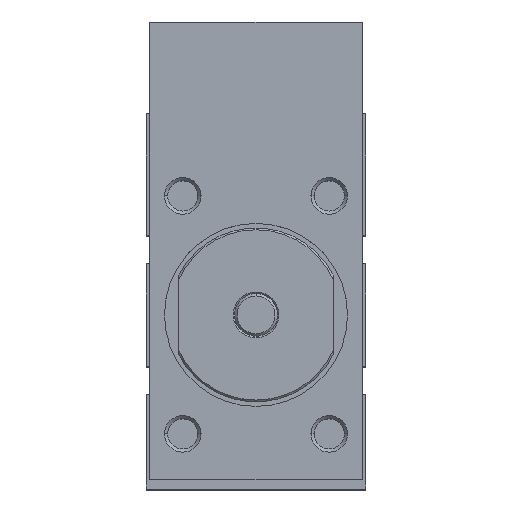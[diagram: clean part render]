
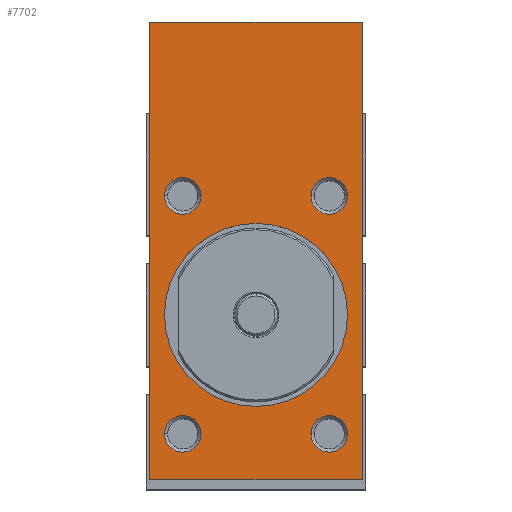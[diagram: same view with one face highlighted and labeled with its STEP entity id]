
A CAD part, top view. The second image highlights one B-rep face of the part: STEP entity #7702.
In plain terms, the highlighted planar face has unit normal (0, 0, 1).
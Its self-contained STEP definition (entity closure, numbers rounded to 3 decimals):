
#5432=DIRECTION('',(0.,-1.,0.));
#5433=VECTOR('',#5432,50.);
#5434=CARTESIAN_POINT('',(-11.6,32.,0.));
#5435=LINE('',#5434,#5433);
#5436=DIRECTION('',(1.,0.,0.));
#5437=VECTOR('',#5436,23.2);
#5438=CARTESIAN_POINT('',(-11.6,-18.,0.));
#5439=LINE('',#5438,#5437);
#5440=DIRECTION('',(1.,0.,0.));
#5441=VECTOR('',#5440,23.2);
#5442=CARTESIAN_POINT('',(-11.6,32.,0.));
#5443=LINE('',#5442,#5441);
#5444=CARTESIAN_POINT('',(0.,0.,0.));
#5445=DIRECTION('',(0.,0.,1.));
#5446=DIRECTION('',(0.,1.,0.));
#5447=AXIS2_PLACEMENT_3D('',#5444,#5445,#5446);
#5449=CARTESIAN_POINT('',(0.,0.,0.));
#5450=DIRECTION('',(0.,0.,1.));
#5451=DIRECTION('',(0.,-1.,0.));
#5452=AXIS2_PLACEMENT_3D('',#5449,#5450,#5451);
#5686=DIRECTION('',(0.,-1.,0.));
#5687=VECTOR('',#5686,50.);
#5688=CARTESIAN_POINT('',(11.6,32.,0.));
#5689=LINE('',#5688,#5687);
#5934=CARTESIAN_POINT('',(-8.,13.,0.));
#5935=DIRECTION('',(0.,0.,1.));
#5936=DIRECTION('',(1.,0.,0.));
#5937=AXIS2_PLACEMENT_3D('',#5934,#5935,#5936);
#5944=CARTESIAN_POINT('',(-8.,13.,0.));
#5945=DIRECTION('',(0.,0.,1.));
#5946=DIRECTION('',(-1.,0.,0.));
#5947=AXIS2_PLACEMENT_3D('',#5944,#5945,#5946);
#5998=CARTESIAN_POINT('',(8.,13.,0.));
#5999=DIRECTION('',(0.,0.,1.));
#6000=DIRECTION('',(1.,0.,0.));
#6001=AXIS2_PLACEMENT_3D('',#5998,#5999,#6000);
#6008=CARTESIAN_POINT('',(8.,13.,0.));
#6009=DIRECTION('',(0.,0.,1.));
#6010=DIRECTION('',(-1.,0.,0.));
#6011=AXIS2_PLACEMENT_3D('',#6008,#6009,#6010);
#6062=CARTESIAN_POINT('',(-8.,-13.,0.));
#6063=DIRECTION('',(0.,0.,1.));
#6064=DIRECTION('',(1.,0.,0.));
#6065=AXIS2_PLACEMENT_3D('',#6062,#6063,#6064);
#6072=CARTESIAN_POINT('',(-8.,-13.,0.));
#6073=DIRECTION('',(0.,0.,1.));
#6074=DIRECTION('',(-1.,0.,0.));
#6075=AXIS2_PLACEMENT_3D('',#6072,#6073,#6074);
#6126=CARTESIAN_POINT('',(8.,-13.,0.));
#6127=DIRECTION('',(0.,0.,1.));
#6128=DIRECTION('',(1.,0.,0.));
#6129=AXIS2_PLACEMENT_3D('',#6126,#6127,#6128);
#6136=CARTESIAN_POINT('',(8.,-13.,0.));
#6137=DIRECTION('',(0.,0.,1.));
#6138=DIRECTION('',(-1.,0.,0.));
#6139=AXIS2_PLACEMENT_3D('',#6136,#6137,#6138);
#7122=CARTESIAN_POINT('',(-11.6,-18.,0.));
#7124=VERTEX_POINT('',#7122);
#7136=CARTESIAN_POINT('',(-11.6,32.,0.));
#7137=VERTEX_POINT('',#7136);
#7138=CARTESIAN_POINT('',(11.6,-18.,0.));
#7140=VERTEX_POINT('',#7138);
#7152=CARTESIAN_POINT('',(11.6,32.,0.));
#7153=VERTEX_POINT('',#7152);
#7166=CARTESIAN_POINT('',(0.,10.,0.));
#7167=CARTESIAN_POINT('',(0.,-10.,0.));
#7168=VERTEX_POINT('',#7166);
#7169=VERTEX_POINT('',#7167);
#7190=CARTESIAN_POINT('',(-6.,13.,0.));
#7191=CARTESIAN_POINT('',(-10.,13.,0.));
#7192=VERTEX_POINT('',#7190);
#7193=VERTEX_POINT('',#7191);
#7198=CARTESIAN_POINT('',(10.,13.,0.));
#7199=CARTESIAN_POINT('',(6.,13.,0.));
#7200=VERTEX_POINT('',#7198);
#7201=VERTEX_POINT('',#7199);
#7206=CARTESIAN_POINT('',(10.,-13.,0.));
#7207=CARTESIAN_POINT('',(6.,-13.,0.));
#7208=VERTEX_POINT('',#7206);
#7209=VERTEX_POINT('',#7207);
#7214=CARTESIAN_POINT('',(-6.,-13.,0.));
#7215=CARTESIAN_POINT('',(-10.,-13.,0.));
#7216=VERTEX_POINT('',#7214);
#7217=VERTEX_POINT('',#7215);
#7659=CARTESIAN_POINT('',(-11.6,32.,0.));
#7660=DIRECTION('',(0.,0.,1.));
#7661=DIRECTION('',(0.,-1.,0.));
#7662=AXIS2_PLACEMENT_3D('',#7659,#7660,#7661);
#7663=PLANE('',#7662);
#7664=ORIENTED_EDGE('',*,*,#7639,.F.);
#7666=ORIENTED_EDGE('',*,*,#7665,.T.);
#7668=ORIENTED_EDGE('',*,*,#7667,.T.);
#7669=ORIENTED_EDGE('',*,*,#7650,.F.);
#7670=EDGE_LOOP('',(#7664,#7666,#7668,#7669));
#7671=FACE_OUTER_BOUND('',#7670,.F.);
#7673=ORIENTED_EDGE('',*,*,#7672,.T.);
#7675=ORIENTED_EDGE('',*,*,#7674,.T.);
#7676=EDGE_LOOP('',(#7673,#7675));
#7677=FACE_BOUND('',#7676,.F.);
#7679=ORIENTED_EDGE('',*,*,#7678,.T.);
#7681=ORIENTED_EDGE('',*,*,#7680,.T.);
#7682=EDGE_LOOP('',(#7679,#7681));
#7683=FACE_BOUND('',#7682,.F.);
#7685=ORIENTED_EDGE('',*,*,#7684,.T.);
#7687=ORIENTED_EDGE('',*,*,#7686,.T.);
#7688=EDGE_LOOP('',(#7685,#7687));
#7689=FACE_BOUND('',#7688,.F.);
#7691=ORIENTED_EDGE('',*,*,#7690,.T.);
#7693=ORIENTED_EDGE('',*,*,#7692,.T.);
#7694=EDGE_LOOP('',(#7691,#7693));
#7695=FACE_BOUND('',#7694,.F.);
#7697=ORIENTED_EDGE('',*,*,#7696,.T.);
#7699=ORIENTED_EDGE('',*,*,#7698,.T.);
#7700=EDGE_LOOP('',(#7697,#7699));
#7701=FACE_BOUND('',#7700,.F.);
#7702=ADVANCED_FACE('',(#7671,#7677,#7683,#7689,#7695,#7701),#7663,.T.);
#5448=CIRCLE('',#5447,10.);
#5453=CIRCLE('',#5452,10.);
#5938=CIRCLE('',#5937,2.);
#5948=CIRCLE('',#5947,2.);
#6002=CIRCLE('',#6001,2.);
#6012=CIRCLE('',#6011,2.);
#6066=CIRCLE('',#6065,2.);
#6076=CIRCLE('',#6075,2.);
#6130=CIRCLE('',#6129,2.);
#6140=CIRCLE('',#6139,2.);
#7639=EDGE_CURVE('',#7137,#7124,#5435,.T.);
#7650=EDGE_CURVE('',#7124,#7140,#5439,.T.);
#7665=EDGE_CURVE('',#7137,#7153,#5443,.T.);
#7667=EDGE_CURVE('',#7153,#7140,#5689,.T.);
#7672=EDGE_CURVE('',#7168,#7169,#5448,.T.);
#7674=EDGE_CURVE('',#7169,#7168,#5453,.T.);
#7678=EDGE_CURVE('',#7192,#7193,#5938,.T.);
#7680=EDGE_CURVE('',#7193,#7192,#5948,.T.);
#7684=EDGE_CURVE('',#7200,#7201,#6002,.T.);
#7686=EDGE_CURVE('',#7201,#7200,#6012,.T.);
#7690=EDGE_CURVE('',#7216,#7217,#6066,.T.);
#7692=EDGE_CURVE('',#7217,#7216,#6076,.T.);
#7696=EDGE_CURVE('',#7208,#7209,#6130,.T.);
#7698=EDGE_CURVE('',#7209,#7208,#6140,.T.);
